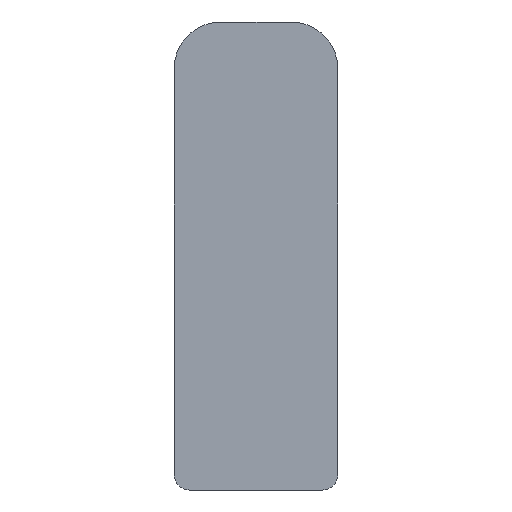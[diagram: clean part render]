
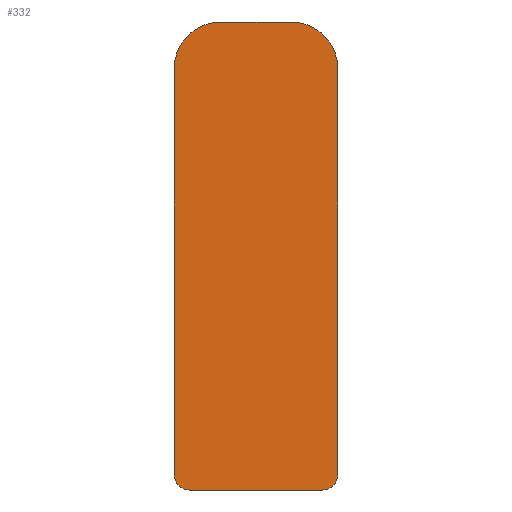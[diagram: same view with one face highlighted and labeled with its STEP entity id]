
A CAD part, left-side view. The second image highlights one B-rep face of the part: STEP entity #332.
In plain terms, the highlighted planar face has unit normal (-1, 0, 0).
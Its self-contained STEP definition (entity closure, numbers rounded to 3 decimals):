
#3 = LINE ( 'NONE', #307, #52 ) ;
#20 = FACE_OUTER_BOUND ( 'NONE', #91, .T. ) ;
#27 = VECTOR ( 'NONE', #318, 1000. ) ;
#28 = LINE ( 'NONE', #319, #27 ) ;
#32 = CIRCLE ( 'NONE', #73, 3. ) ;
#38 = VECTOR ( 'NONE', #275, 1000. ) ;
#39 = LINE ( 'NONE', #278, #38 ) ;
#45 = CIRCLE ( 'NONE', #75, 3. ) ;
#52 = VECTOR ( 'NONE', #306, 1000. ) ;
#53 = CIRCLE ( 'NONE', #77, 1. ) ;
#66 = AXIS2_PLACEMENT_3D ( 'NONE', #219, #218, #217 ) ;
#73 = AXIS2_PLACEMENT_3D ( 'NONE', #267, #266, #265 ) ;
#75 = AXIS2_PLACEMENT_3D ( 'NONE', #292, #290, #289 ) ;
#77 = AXIS2_PLACEMENT_3D ( 'NONE', #310, #309, #308 ) ;
#91 = EDGE_LOOP ( 'NONE', ( #113, #114, #115, #116, #117, #118, #119, #120 ) ) ;
#113 = ORIENTED_EDGE ( 'NONE', *, *, #158, .T. ) ;
#114 = ORIENTED_EDGE ( 'NONE', *, *, #162, .T. ) ;
#115 = ORIENTED_EDGE ( 'NONE', *, *, #167, .T. ) ;
#116 = ORIENTED_EDGE ( 'NONE', *, *, #143, .T. ) ;
#117 = ORIENTED_EDGE ( 'NONE', *, *, #146, .T. ) ;
#118 = ORIENTED_EDGE ( 'NONE', *, *, #150, .T. ) ;
#119 = ORIENTED_EDGE ( 'NONE', *, *, #153, .T. ) ;
#120 = ORIENTED_EDGE ( 'NONE', *, *, #154, .T. ) ;
#140 = AXIS2_PLACEMENT_3D ( 'NONE', #188, #185, #180 ) ;
#143 = EDGE_CURVE ( 'NONE', #297, #313, #177, .T. ) ;
#146 = EDGE_CURVE ( 'NONE', #313, #276, #164, .T. ) ;
#150 = EDGE_CURVE ( 'NONE', #276, #305, #28, .T. ) ;
#153 = EDGE_CURVE ( 'NONE', #305, #326, #53, .T. ) ;
#154 = EDGE_CURVE ( 'NONE', #326, #300, #3, .T. ) ;
#158 = EDGE_CURVE ( 'NONE', #300, #320, #45, .T. ) ;
#162 = EDGE_CURVE ( 'NONE', #320, #288, #39, .T. ) ;
#164 = CIRCLE ( 'NONE', #140, 1. ) ;
#167 = EDGE_CURVE ( 'NONE', #288, #297, #32, .T. ) ;
#176 = VECTOR ( 'NONE', #234, 1000. ) ;
#177 = LINE ( 'NONE', #240, #176 ) ;
#180 = DIRECTION ( 'NONE',  ( 0., 0., -1. ) ) ;
#185 = DIRECTION ( 'NONE',  ( -1., 0., 0. ) ) ;
#188 = CARTESIAN_POINT ( 'NONE',  ( -181.25, 4.25, 1. ) ) ;
#217 = DIRECTION ( 'NONE',  ( 0., 0., 1. ) ) ;
#218 = DIRECTION ( 'NONE',  ( -1., 0., 0. ) ) ;
#219 = CARTESIAN_POINT ( 'NONE',  ( -181.25, -2.25, 27. ) ) ;
#221 = PLANE ( 'NONE',  #66 ) ;
#234 = DIRECTION ( 'NONE',  ( 0., 0., -1. ) ) ;
#240 = CARTESIAN_POINT ( 'NONE',  ( -181.25, 5.25, 1. ) ) ;
#241 = CARTESIAN_POINT ( 'NONE',  ( -181.25, -5.25, 1. ) ) ;
#242 = CARTESIAN_POINT ( 'NONE',  ( -181.25, -2.25, 30. ) ) ;
#244 = CARTESIAN_POINT ( 'NONE',  ( -181.25, 5.25, 1. ) ) ;
#245 = CARTESIAN_POINT ( 'NONE',  ( -181.25, -4.25, 0. ) ) ;
#247 = CARTESIAN_POINT ( 'NONE',  ( -181.25, -5.25, 27. ) ) ;
#249 = CARTESIAN_POINT ( 'NONE',  ( -181.25, 5.25, 27. ) ) ;
#252 = CARTESIAN_POINT ( 'NONE',  ( -181.25, 2.25, 30. ) ) ;
#256 = CARTESIAN_POINT ( 'NONE',  ( -181.25, 4.25, 0. ) ) ;
#265 = DIRECTION ( 'NONE',  ( 0., 0., -1. ) ) ;
#266 = DIRECTION ( 'NONE',  ( -1., 0., 0. ) ) ;
#267 = CARTESIAN_POINT ( 'NONE',  ( -181.25, 2.25, 27. ) ) ;
#275 = DIRECTION ( 'NONE',  ( 0., 1., 0. ) ) ;
#276 = VERTEX_POINT ( 'NONE', #256 ) ;
#278 = CARTESIAN_POINT ( 'NONE',  ( -181.25, -2.25, 30. ) ) ;
#288 = VERTEX_POINT ( 'NONE', #252 ) ;
#289 = DIRECTION ( 'NONE',  ( 0., 0., 1. ) ) ;
#290 = DIRECTION ( 'NONE',  ( -1., 0., 0. ) ) ;
#292 = CARTESIAN_POINT ( 'NONE',  ( -181.25, -2.25, 27. ) ) ;
#297 = VERTEX_POINT ( 'NONE', #249 ) ;
#300 = VERTEX_POINT ( 'NONE', #247 ) ;
#305 = VERTEX_POINT ( 'NONE', #245 ) ;
#306 = DIRECTION ( 'NONE',  ( 0., 0., 1. ) ) ;
#307 = CARTESIAN_POINT ( 'NONE',  ( -181.25, -5.25, 1. ) ) ;
#308 = DIRECTION ( 'NONE',  ( 0., 0., -1. ) ) ;
#309 = DIRECTION ( 'NONE',  ( -1., 0., 0. ) ) ;
#310 = CARTESIAN_POINT ( 'NONE',  ( -181.25, -4.25, 1. ) ) ;
#313 = VERTEX_POINT ( 'NONE', #244 ) ;
#318 = DIRECTION ( 'NONE',  ( 0., -1., 0. ) ) ;
#319 = CARTESIAN_POINT ( 'NONE',  ( -181.25, -4.25, 0. ) ) ;
#320 = VERTEX_POINT ( 'NONE', #242 ) ;
#326 = VERTEX_POINT ( 'NONE', #241 ) ;
#332 = ADVANCED_FACE ( 'NONE', ( #20 ), #221, .T. ) ;
